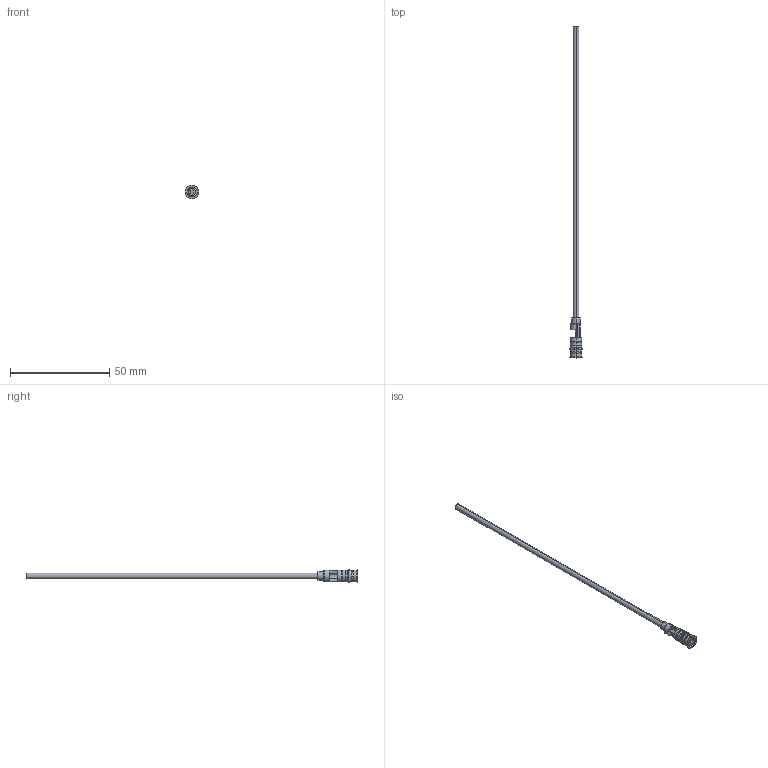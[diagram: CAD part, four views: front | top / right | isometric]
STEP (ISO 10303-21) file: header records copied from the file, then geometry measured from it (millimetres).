
FILE_DESCRIPTION (( 'STEP AP203' ), '1' );
FILE_NAME ('RF-6F.STEP', '2014-07-04T08:29:08', ( 'Balzi' ), ( '' ), 'SwSTEP 2.0', 'SolidWorks 2012', '' );
FILE_SCHEMA (( 'CONFIG_CONTROL_DESIGN' ));
Length unit declared in the file: millimetre
Products named in the file (1): RF-6F
Bounding box: 6.8 x 167.2 x 6.8 mm (x, y, z)
Volume: 661.6 mm3; surface area: 3150.9 mm2
Topology: 1 solids, 1 shells, 83 faces, 190 edges, 118 vertices
Faces by surface type: cylinder 30, plane 29, torus 12, cone 12
Entity records: 2442 total; most frequent: DIRECTION 445, CARTESIAN_POINT 423, ORIENTED_EDGE 380, EDGE_CURVE 190, AXIS2_PLACEMENT_3D 180, VERTEX_POINT 118, CIRCLE 96, EDGE_LOOP 94
